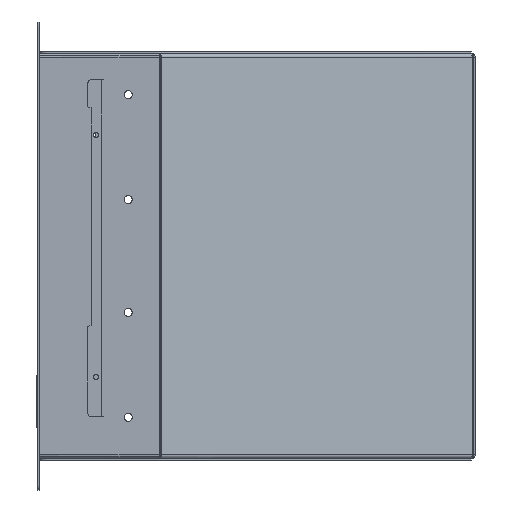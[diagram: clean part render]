
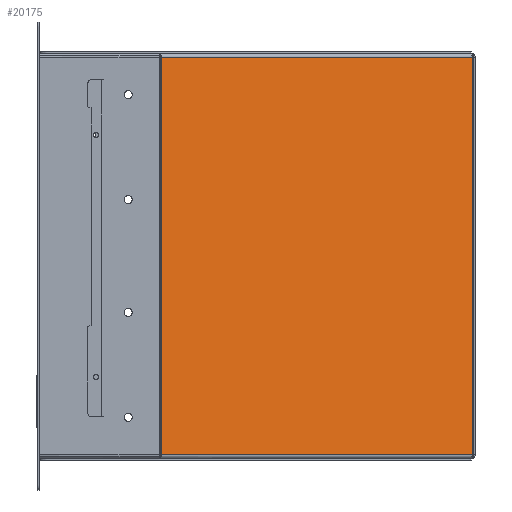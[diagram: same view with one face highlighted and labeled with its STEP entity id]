
A CAD part, left-side view. The second image highlights one B-rep face of the part: STEP entity #20175.
In plain terms, the highlighted planar face has unit normal (-0.819, -0.574, 0) as drawn and (-0.819, 0.574, 0) by its records, which use the part's own axes.
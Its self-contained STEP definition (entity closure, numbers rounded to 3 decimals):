
#588 = DIRECTION ( 'NONE',  ( -0.574, -0.819, 0. ) ) ;
#2356 = CARTESIAN_POINT ( 'NONE',  ( -279.084, 75.594, -123.2 ) ) ;
#3448 = LINE ( 'NONE', #9157, #36390 ) ;
#3597 = VERTEX_POINT ( 'NONE', #2356 ) ;
#3876 = VECTOR ( 'NONE', #588, 1000. ) ;
#6091 = ORIENTED_EDGE ( 'NONE', *, *, #27117, .T. ) ;
#7013 = CARTESIAN_POINT ( 'NONE',  ( -143.646, 269.019, -123.2 ) ) ;
#9157 = CARTESIAN_POINT ( 'NONE',  ( -279.084, 75.594, 123.2 ) ) ;
#11506 = ORIENTED_EDGE ( 'NONE', *, *, #27245, .T. ) ;
#12146 = AXIS2_PLACEMENT_3D ( 'NONE', #33925, #18991, #22128 ) ;
#12660 = ORIENTED_EDGE ( 'NONE', *, *, #37746, .T. ) ;
#13565 = LINE ( 'NONE', #28665, #25119 ) ;
#13981 = VERTEX_POINT ( 'NONE', #23707 ) ;
#14107 = CARTESIAN_POINT ( 'NONE',  ( -143.646, 269.019, 125.5 ) ) ;
#16049 = PLANE ( 'NONE',  #12146 ) ;
#18876 = CARTESIAN_POINT ( 'NONE',  ( -143.646, 269.019, 123.2 ) ) ;
#18991 = DIRECTION ( 'NONE',  ( -0.819, 0.574, 0. ) ) ;
#19668 = VECTOR ( 'NONE', #28240, 1000. ) ;
#20175 = ADVANCED_FACE ( 'NONE', ( #30777 ), #16049, .T. ) ;
#22128 = DIRECTION ( 'NONE',  ( -0.574, -0.819, 0. ) ) ;
#23707 = CARTESIAN_POINT ( 'NONE',  ( -279.084, 75.594, 123.2 ) ) ;
#23947 = EDGE_LOOP ( 'NONE', ( #11506, #6091, #32882, #12660 ) ) ;
#24271 = DIRECTION ( 'NONE',  ( 0.574, 0.819, 0. ) ) ;
#25119 = VECTOR ( 'NONE', #32009, 1000. ) ;
#25511 = EDGE_CURVE ( 'NONE', #13981, #3597, #13565, .T. ) ;
#27117 = EDGE_CURVE ( 'NONE', #27467, #3597, #33577, .T. ) ;
#27245 = EDGE_CURVE ( 'NONE', #34118, #27467, #29029, .T. ) ;
#27467 = VERTEX_POINT ( 'NONE', #7013 ) ;
#28240 = DIRECTION ( 'NONE',  ( 0., 0., -1. ) ) ;
#28665 = CARTESIAN_POINT ( 'NONE',  ( -279.084, 75.594, 125.5 ) ) ;
#29029 = LINE ( 'NONE', #14107, #19668 ) ;
#30427 = CARTESIAN_POINT ( 'NONE',  ( -143.646, 269.019, -123.2 ) ) ;
#30777 = FACE_OUTER_BOUND ( 'NONE', #23947, .T. ) ;
#32009 = DIRECTION ( 'NONE',  ( 0., 0., -1. ) ) ;
#32882 = ORIENTED_EDGE ( 'NONE', *, *, #25511, .F. ) ;
#33577 = LINE ( 'NONE', #30427, #3876 ) ;
#33925 = CARTESIAN_POINT ( 'NONE',  ( -279.5, 75., 125.5 ) ) ;
#34118 = VERTEX_POINT ( 'NONE', #18876 ) ;
#36390 = VECTOR ( 'NONE', #24271, 1000. ) ;
#37746 = EDGE_CURVE ( 'NONE', #13981, #34118, #3448, .T. ) ;
